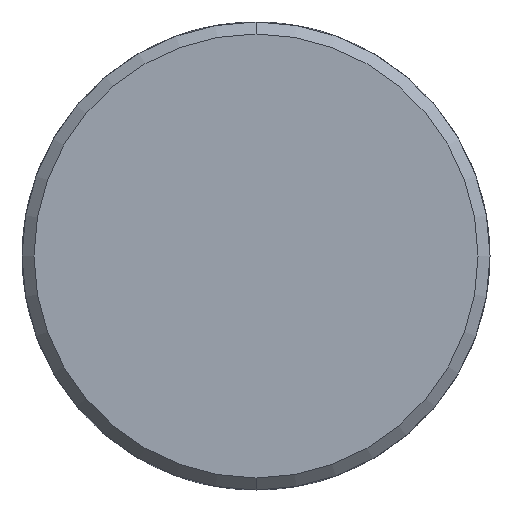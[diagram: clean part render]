
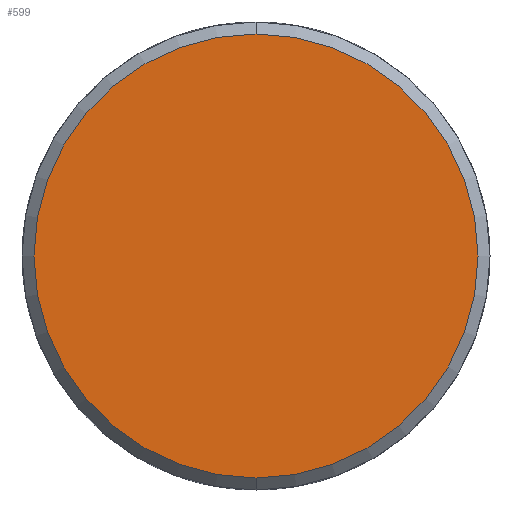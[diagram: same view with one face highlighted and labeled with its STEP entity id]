
A CAD part, front view. The second image highlights one B-rep face of the part: STEP entity #599.
In plain terms, the highlighted planar face has unit normal (0, -1, 0).
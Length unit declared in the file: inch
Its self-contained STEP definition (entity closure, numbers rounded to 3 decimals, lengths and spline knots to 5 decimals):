
#196 = EDGE_CURVE ( 'NONE', #197, #198, #1801, .T. ) ;
#197 = VERTEX_POINT ( 'NONE', #1791 ) ;
#198 = VERTEX_POINT ( 'NONE', #1790 ) ;
#597 = EDGE_LOOP ( 'NONE', ( #600, #602 ) ) ;
#599 = ADVANCED_FACE ( 'NONE', ( #2952 ), #2999, .F. ) ;
#600 = ORIENTED_EDGE ( 'NONE', *, *, #601, .T. ) ;
#601 = EDGE_CURVE ( 'NONE', #198, #197, #3005, .T. ) ;
#602 = ORIENTED_EDGE ( 'NONE', *, *, #196, .T. ) ;
#1790 = CARTESIAN_POINT ( 'NONE',  ( 0., 0., 1.11 ) ) ;
#1791 = CARTESIAN_POINT ( 'NONE',  ( 0., 0., -1.11 ) ) ;
#1792 = DIRECTION ( 'NONE',  ( 0., 0., 1. ) ) ;
#1793 = DIRECTION ( 'NONE',  ( 0., -1., 0. ) ) ;
#1794 = CARTESIAN_POINT ( 'NONE',  ( 0., 0., 0. ) ) ;
#1795 = AXIS2_PLACEMENT_3D ( 'NONE', #1794, #1793, #1792 ) ;
#1801 = CIRCLE ( 'NONE', #1795, 1.11 ) ;
#2952 = FACE_OUTER_BOUND ( 'NONE', #597, .T. ) ;
#2978 = DIRECTION ( 'NONE',  ( 0., 0., 1. ) ) ;
#2979 = DIRECTION ( 'NONE',  ( 0., -1., 0. ) ) ;
#2980 = AXIS2_PLACEMENT_3D ( 'NONE', #3006, #2979, #2978 ) ;
#2999 = PLANE ( 'NONE',  #3004 ) ;
#3001 = DIRECTION ( 'NONE',  ( 0., 0., 1. ) ) ;
#3002 = DIRECTION ( 'NONE',  ( 0., 1., 0. ) ) ;
#3003 = CARTESIAN_POINT ( 'NONE',  ( 0., 0., 0. ) ) ;
#3004 = AXIS2_PLACEMENT_3D ( 'NONE', #3003, #3002, #3001 ) ;
#3005 = CIRCLE ( 'NONE', #2980, 1.11 ) ;
#3006 = CARTESIAN_POINT ( 'NONE',  ( 0., 0., 0. ) ) ;
